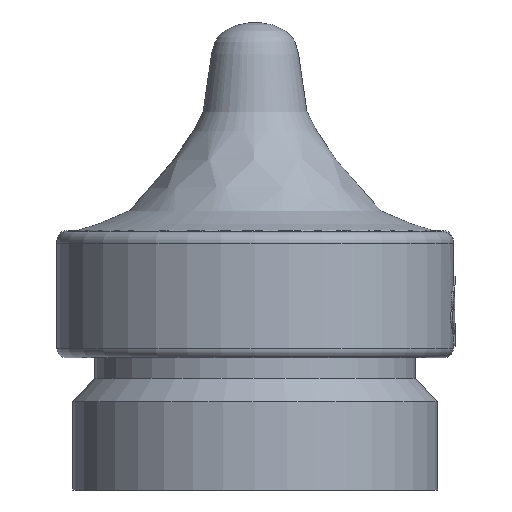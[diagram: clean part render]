
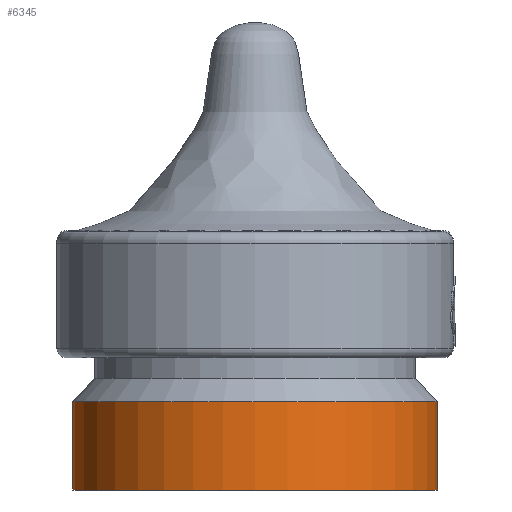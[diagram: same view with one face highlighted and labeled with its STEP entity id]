
A CAD part, left-side view. The second image highlights one B-rep face of the part: STEP entity #6345.
In plain terms, the highlighted cylindrical face has radius 23.4 mm (diameter 46.8 mm), a full revolution.
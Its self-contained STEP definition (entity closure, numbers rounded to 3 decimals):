
#6278 = CONICAL_SURFACE('',#6279,20.55,0.76);
#6279 = AXIS2_PLACEMENT_3D('',#6280,#6281,#6282);
#6280 = CARTESIAN_POINT('',(0.,0.,-14.7));
#6281 = DIRECTION('',(-0.,-0.,-1.));
#6282 = DIRECTION('',(1.,0.,0.));
#6296 = VERTEX_POINT('',#6297);
#6297 = CARTESIAN_POINT('',(23.4,0.,-17.7));
#6318 = EDGE_CURVE('',#6296,#6296,#6319,.T.);
#6319 = SURFACE_CURVE('',#6320,(#6325,#6332),.PCURVE_S1.);
#6320 = CIRCLE('',#6321,23.4);
#6321 = AXIS2_PLACEMENT_3D('',#6322,#6323,#6324);
#6322 = CARTESIAN_POINT('',(0.,0.,-17.7));
#6323 = DIRECTION('',(0.,0.,1.));
#6324 = DIRECTION('',(1.,0.,-0.));
#6325 = PCURVE('',#6278,#6326);
#6326 = DEFINITIONAL_REPRESENTATION('',(#6327),#6331);
#6327 = LINE('',#6328,#6329);
#6328 = CARTESIAN_POINT('',(-0.,3.));
#6329 = VECTOR('',#6330,1.);
#6330 = DIRECTION('',(-1.,0.));
#6331 = ( GEOMETRIC_REPRESENTATION_CONTEXT(2) 
PARAMETRIC_REPRESENTATION_CONTEXT() REPRESENTATION_CONTEXT('2D SPACE',''
  ) );
#6332 = PCURVE('',#6333,#6338);
#6333 = CYLINDRICAL_SURFACE('',#6334,23.4);
#6334 = AXIS2_PLACEMENT_3D('',#6335,#6336,#6337);
#6335 = CARTESIAN_POINT('',(0.,0.,-17.7));
#6336 = DIRECTION('',(-0.,-0.,-1.));
#6337 = DIRECTION('',(1.,0.,0.));
#6338 = DEFINITIONAL_REPRESENTATION('',(#6339),#6343);
#6339 = LINE('',#6340,#6341);
#6340 = CARTESIAN_POINT('',(-0.,0.));
#6341 = VECTOR('',#6342,1.);
#6342 = DIRECTION('',(-1.,0.));
#6343 = ( GEOMETRIC_REPRESENTATION_CONTEXT(2) 
PARAMETRIC_REPRESENTATION_CONTEXT() REPRESENTATION_CONTEXT('2D SPACE',''
  ) );
#6345 = ADVANCED_FACE('',(#6346),#6333,.T.);
#6346 = FACE_BOUND('',#6347,.F.);
#6347 = EDGE_LOOP('',(#6348,#6349,#6372,#6399));
#6348 = ORIENTED_EDGE('',*,*,#6318,.T.);
#6349 = ORIENTED_EDGE('',*,*,#6350,.T.);
#6350 = EDGE_CURVE('',#6296,#6351,#6353,.T.);
#6351 = VERTEX_POINT('',#6352);
#6352 = CARTESIAN_POINT('',(23.4,0.,-29.));
#6353 = SEAM_CURVE('',#6354,(#6358,#6365),.PCURVE_S1.);
#6354 = LINE('',#6355,#6356);
#6355 = CARTESIAN_POINT('',(23.4,0.,-17.7));
#6356 = VECTOR('',#6357,1.);
#6357 = DIRECTION('',(0.,0.,-1.));
#6358 = PCURVE('',#6333,#6359);
#6359 = DEFINITIONAL_REPRESENTATION('',(#6360),#6364);
#6360 = LINE('',#6361,#6362);
#6361 = CARTESIAN_POINT('',(-0.,0.));
#6362 = VECTOR('',#6363,1.);
#6363 = DIRECTION('',(-0.,1.));
#6364 = ( GEOMETRIC_REPRESENTATION_CONTEXT(2) 
PARAMETRIC_REPRESENTATION_CONTEXT() REPRESENTATION_CONTEXT('2D SPACE',''
  ) );
#6365 = PCURVE('',#6333,#6366);
#6366 = DEFINITIONAL_REPRESENTATION('',(#6367),#6371);
#6367 = LINE('',#6368,#6369);
#6368 = CARTESIAN_POINT('',(-6.283,0.));
#6369 = VECTOR('',#6370,1.);
#6370 = DIRECTION('',(-0.,1.));
#6371 = ( GEOMETRIC_REPRESENTATION_CONTEXT(2) 
PARAMETRIC_REPRESENTATION_CONTEXT() REPRESENTATION_CONTEXT('2D SPACE',''
  ) );
#6372 = ORIENTED_EDGE('',*,*,#6373,.F.);
#6373 = EDGE_CURVE('',#6351,#6351,#6374,.T.);
#6374 = SURFACE_CURVE('',#6375,(#6380,#6387),.PCURVE_S1.);
#6375 = CIRCLE('',#6376,23.4);
#6376 = AXIS2_PLACEMENT_3D('',#6377,#6378,#6379);
#6377 = CARTESIAN_POINT('',(0.,0.,-29.));
#6378 = DIRECTION('',(0.,0.,1.));
#6379 = DIRECTION('',(1.,0.,-0.));
#6380 = PCURVE('',#6333,#6381);
#6381 = DEFINITIONAL_REPRESENTATION('',(#6382),#6386);
#6382 = LINE('',#6383,#6384);
#6383 = CARTESIAN_POINT('',(-0.,11.3));
#6384 = VECTOR('',#6385,1.);
#6385 = DIRECTION('',(-1.,0.));
#6386 = ( GEOMETRIC_REPRESENTATION_CONTEXT(2) 
PARAMETRIC_REPRESENTATION_CONTEXT() REPRESENTATION_CONTEXT('2D SPACE',''
  ) );
#6387 = PCURVE('',#6388,#6393);
#6388 = PLANE('',#6389);
#6389 = AXIS2_PLACEMENT_3D('',#6390,#6391,#6392);
#6390 = CARTESIAN_POINT('',(0.,0.,-29.));
#6391 = DIRECTION('',(0.,0.,1.));
#6392 = DIRECTION('',(1.,0.,-0.));
#6393 = DEFINITIONAL_REPRESENTATION('',(#6394),#6398);
#6394 = CIRCLE('',#6395,23.4);
#6395 = AXIS2_PLACEMENT_2D('',#6396,#6397);
#6396 = CARTESIAN_POINT('',(0.,0.));
#6397 = DIRECTION('',(1.,0.));
#6398 = ( GEOMETRIC_REPRESENTATION_CONTEXT(2) 
PARAMETRIC_REPRESENTATION_CONTEXT() REPRESENTATION_CONTEXT('2D SPACE',''
  ) );
#6399 = ORIENTED_EDGE('',*,*,#6350,.F.);
